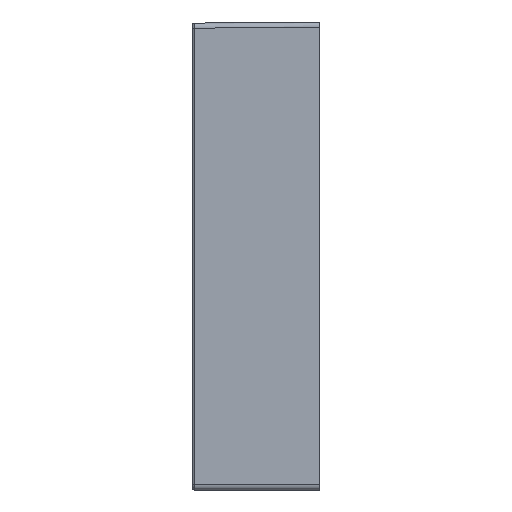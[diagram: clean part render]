
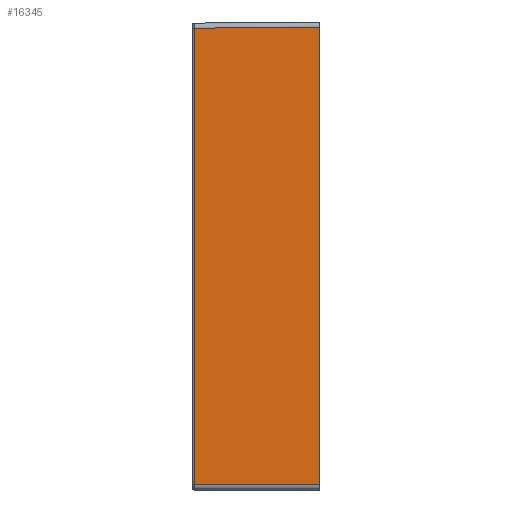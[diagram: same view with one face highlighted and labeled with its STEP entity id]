
A CAD part, left-side view. The second image highlights one B-rep face of the part: STEP entity #16345.
In plain terms, the highlighted planar face has unit normal (-1, 0.009, 0).
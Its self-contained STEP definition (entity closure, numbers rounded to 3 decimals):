
#662 = VERTEX_POINT ( 'NONE', #12805 ) ;
#901 = VECTOR ( 'NONE', #10379, 1000. ) ;
#2575 = VECTOR ( 'NONE', #25627, 1000. ) ;
#4148 = FACE_OUTER_BOUND ( 'NONE', #6520, .T. ) ;
#5578 = AXIS2_PLACEMENT_3D ( 'NONE', #19503, #23763, #19363 ) ;
#6191 = CARTESIAN_POINT ( 'NONE',  ( 649.164, 123.017, -205. ) ) ;
#6520 = EDGE_LOOP ( 'NONE', ( #16496, #24887, #16070, #23014 ) ) ;
#7602 = CARTESIAN_POINT ( 'NONE',  ( 648.091, 0., 249. ) ) ;
#9717 = EDGE_CURVE ( 'NONE', #16425, #27621, #25466, .T. ) ;
#10215 = VERTEX_POINT ( 'NONE', #13973 ) ;
#10379 = DIRECTION ( 'NONE',  ( 0.009, 1., 0. ) ) ;
#10682 = PLANE ( 'NONE',  #5578 ) ;
#11460 = LINE ( 'NONE', #18154, #26510 ) ;
#11544 = LINE ( 'NONE', #18942, #2575 ) ;
#11742 = DIRECTION ( 'NONE',  ( 0., 0., 1. ) ) ;
#12108 = VECTOR ( 'NONE', #27387, 1000. ) ;
#12805 = CARTESIAN_POINT ( 'NONE',  ( 648.091, 0., 245.091 ) ) ;
#13973 = CARTESIAN_POINT ( 'NONE',  ( 649.164, 123.017, 244.017 ) ) ;
#16070 = ORIENTED_EDGE ( 'NONE', *, *, #25908, .F. ) ;
#16345 = ADVANCED_FACE ( 'NONE', ( #4148 ), #10682, .T. ) ;
#16425 = VERTEX_POINT ( 'NONE', #18215 ) ;
#16496 = ORIENTED_EDGE ( 'NONE', *, *, #9717, .F. ) ;
#18154 = CARTESIAN_POINT ( 'NONE',  ( 649.164, 123.017, 249. ) ) ;
#18215 = CARTESIAN_POINT ( 'NONE',  ( 648.091, 0., -205. ) ) ;
#18552 = LINE ( 'NONE', #7602, #12108 ) ;
#18942 = CARTESIAN_POINT ( 'NONE',  ( 648.09, -0.044, 245.091 ) ) ;
#19064 = CARTESIAN_POINT ( 'NONE',  ( 649.182, 125., -205. ) ) ;
#19363 = DIRECTION ( 'NONE',  ( 0.009, 1., 0. ) ) ;
#19463 = EDGE_CURVE ( 'NONE', #27621, #10215, #11460, .T. ) ;
#19503 = CARTESIAN_POINT ( 'NONE',  ( 649.182, 125., 249. ) ) ;
#23014 = ORIENTED_EDGE ( 'NONE', *, *, #19463, .F. ) ;
#23763 = DIRECTION ( 'NONE',  ( -1., 0.009, 0. ) ) ;
#24887 = ORIENTED_EDGE ( 'NONE', *, *, #25060, .T. ) ;
#25060 = EDGE_CURVE ( 'NONE', #16425, #662, #18552, .T. ) ;
#25466 = LINE ( 'NONE', #19064, #901 ) ;
#25627 = DIRECTION ( 'NONE',  ( -0.009, -1., 0.009 ) ) ;
#25908 = EDGE_CURVE ( 'NONE', #10215, #662, #11544, .T. ) ;
#26510 = VECTOR ( 'NONE', #11742, 1000. ) ;
#27387 = DIRECTION ( 'NONE',  ( 0., 0., 1. ) ) ;
#27621 = VERTEX_POINT ( 'NONE', #6191 ) ;
